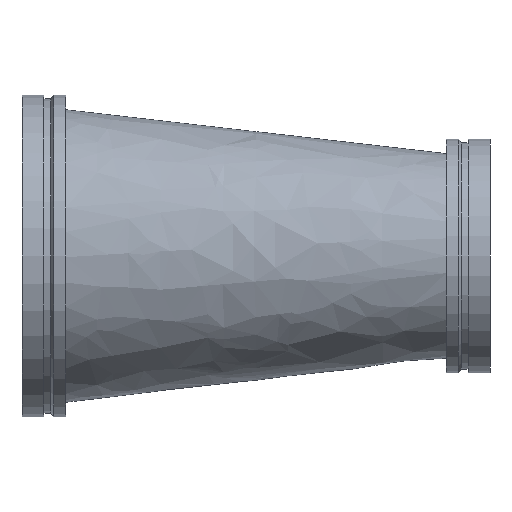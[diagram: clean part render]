
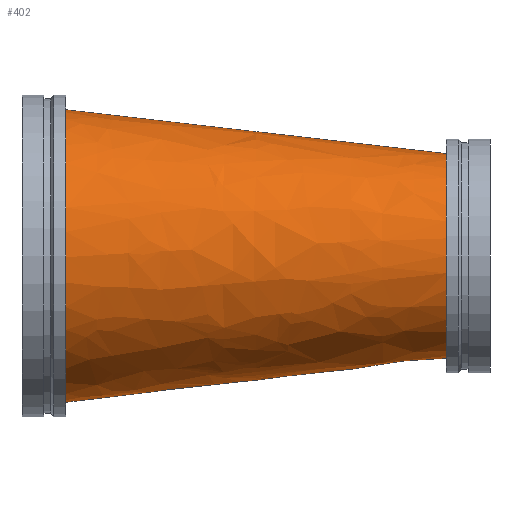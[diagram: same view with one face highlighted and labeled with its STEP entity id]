
A CAD part, front view. The second image highlights one B-rep face of the part: STEP entity #402.
In plain terms, the highlighted free-form (B-spline) face has degree [1, 2] with [2, 9] control points.
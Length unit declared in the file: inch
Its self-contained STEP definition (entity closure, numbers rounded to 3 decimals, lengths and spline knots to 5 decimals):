
#46=B_SPLINE_CURVE_WITH_KNOTS('',1,(#777,#778),.UNSPECIFIED.,.F.,.F.,(2,
2),(-2.6352,-0.00148),.UNSPECIFIED.);
#48=(
BOUNDED_SURFACE()
B_SPLINE_SURFACE(1,2,((#759,#760,#761,#762,#763,#764,#765,#766,#767),(#768,
#769,#770,#771,#772,#773,#774,#775,#776)),.UNSPECIFIED.,.F.,.T.,.F.)
B_SPLINE_SURFACE_WITH_KNOTS((2,2),(3,2,2,2,3),(-0.11389,2.71389),
(-3.14159,-1.5708,0.,1.5708,3.14159),
 .UNSPECIFIED.)
GEOMETRIC_REPRESENTATION_ITEM()
RATIONAL_B_SPLINE_SURFACE(((1.,0.707,1.,0.707,1.,
0.707,1.,0.707,1.),(1.,0.707,1.,0.707,
1.,0.707,1.,0.707,1.)))
REPRESENTATION_ITEM('')
SURFACE()
);
#98=FACE_OUTER_BOUND('',#120,.T.);
#120=EDGE_LOOP('',(#333,#334,#335,#336,#337,#338));
#129=CIRCLE('',#430,7.);
#130=CIRCLE('',#431,7.);
#153=CIRCLE('',#465,10.);
#154=CIRCLE('',#466,10.);
#169=VERTEX_POINT('',#652);
#170=VERTEX_POINT('',#653);
#193=VERTEX_POINT('',#719);
#194=VERTEX_POINT('',#720);
#209=EDGE_CURVE('',#169,#170,#129,.T.);
#210=EDGE_CURVE('',#170,#169,#130,.T.);
#241=EDGE_CURVE('',#193,#194,#153,.T.);
#242=EDGE_CURVE('',#194,#193,#154,.T.);
#252=EDGE_CURVE('',#170,#194,#46,.T.);
#333=ORIENTED_EDGE('',*,*,#209,.T.);
#334=ORIENTED_EDGE('',*,*,#252,.T.);
#335=ORIENTED_EDGE('',*,*,#242,.T.);
#336=ORIENTED_EDGE('',*,*,#241,.T.);
#337=ORIENTED_EDGE('',*,*,#252,.F.);
#338=ORIENTED_EDGE('',*,*,#210,.T.);
#402=ADVANCED_FACE('',(#98),#48,.F.);
#430=AXIS2_PLACEMENT_3D('',#654,#504,#505);
#431=AXIS2_PLACEMENT_3D('',#655,#506,#507);
#465=AXIS2_PLACEMENT_3D('',#721,#582,#583);
#466=AXIS2_PLACEMENT_3D('',#722,#584,#585);
#504=DIRECTION('center_axis',(-1.,0.,0.));
#505=DIRECTION('ref_axis',(0.,-1.,0.));
#506=DIRECTION('center_axis',(-1.,0.,0.));
#507=DIRECTION('ref_axis',(0.,-1.,0.));
#582=DIRECTION('center_axis',(1.,0.,0.));
#583=DIRECTION('ref_axis',(0.,1.,0.));
#584=DIRECTION('center_axis',(1.,0.,0.));
#585=DIRECTION('ref_axis',(0.,1.,0.));
#652=CARTESIAN_POINT('',(29.,-10.,0.));
#653=CARTESIAN_POINT('',(29.,-3.09079,6.99941));
#654=CARTESIAN_POINT('Origin',(29.,-3.,0.));
#655=CARTESIAN_POINT('Origin',(29.,-3.,0.));
#719=CARTESIAN_POINT('',(3.,10.,0.));
#720=CARTESIAN_POINT('',(3.,-0.1297,9.99916));
#721=CARTESIAN_POINT('Origin',(3.,0.,0.));
#722=CARTESIAN_POINT('Origin',(3.,0.,0.));
#759=CARTESIAN_POINT('Ctrl Pts',(1.86112,0.,
10.13056));
#760=CARTESIAN_POINT('Ctrl Pts',(0.72224,-10.,10.13056));
#761=CARTESIAN_POINT('Ctrl Pts',(0.72224,-10.,0.));
#762=CARTESIAN_POINT('Ctrl Pts',(0.72224,-10.,-10.13056));
#763=CARTESIAN_POINT('Ctrl Pts',(1.86112,0.,
-10.13056));
#764=CARTESIAN_POINT('Ctrl Pts',(3.,10.,-10.13056));
#765=CARTESIAN_POINT('Ctrl Pts',(3.,10.,0.));
#766=CARTESIAN_POINT('Ctrl Pts',(3.,10.,10.13056));
#767=CARTESIAN_POINT('Ctrl Pts',(1.86112,0.,
10.13056));
#768=CARTESIAN_POINT('Ctrl Pts',(29.7768,-3.17926,6.90979));
#769=CARTESIAN_POINT('Ctrl Pts',(29.,-10.,6.90979));
#770=CARTESIAN_POINT('Ctrl Pts',(29.,-10.,0.));
#771=CARTESIAN_POINT('Ctrl Pts',(29.,-10.,-6.90979));
#772=CARTESIAN_POINT('Ctrl Pts',(29.7768,-3.17926,-6.90979));
#773=CARTESIAN_POINT('Ctrl Pts',(30.5536,3.64148,-6.90979));
#774=CARTESIAN_POINT('Ctrl Pts',(30.5536,3.64148,0.));
#775=CARTESIAN_POINT('Ctrl Pts',(30.5536,3.64148,6.90979));
#776=CARTESIAN_POINT('Ctrl Pts',(29.7768,-3.17926,6.90979));
#777=CARTESIAN_POINT('Ctrl Pts',(29.,-3.09079,6.99941));
#778=CARTESIAN_POINT('Ctrl Pts',(3.,-0.1297,9.99916));
